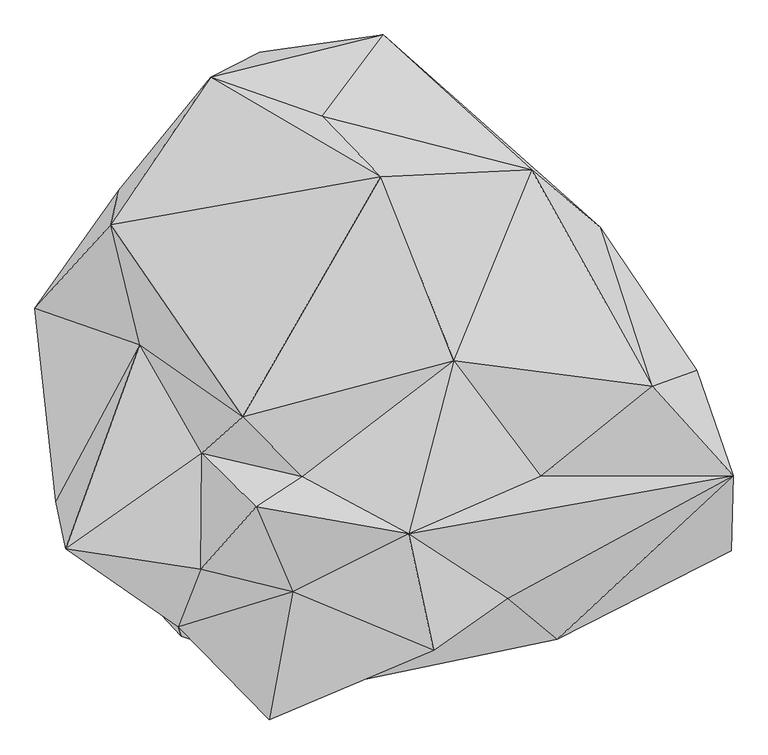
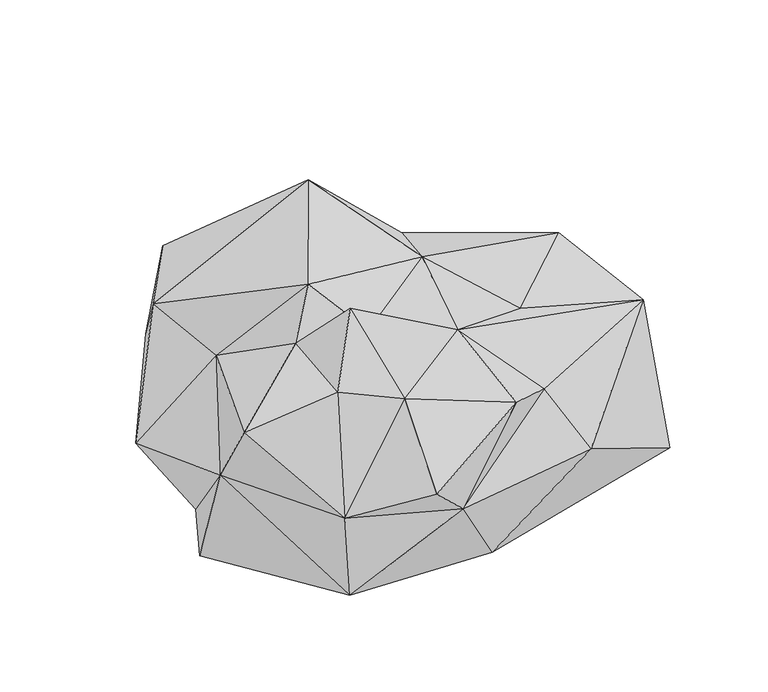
"""IFC4 building model written with IfcOpenShell, lengths in millimetres: geographic element geometry, Enscape AssetDefinition - Bush 012 English Laurel : Enscape AssetDefinition - Bush 012 English Laurel."""

from ifc_helpers import new_model, si_unit, origin, place, context, project, spatial, triangles, source, transform, mapped, element, save


def geographic_element_71cebea8(model_context):
    return source(origin(), model_context, "Body", "Tessellation", [
        triangles([(-211.1040112, -235.8870007, 1015.6639498), (55.3850005, 780.5689974, 1152.0049736), (-412.9210167, -33.5029991, 1221.9679996), (974.4020061, 69.7830043, 962.4089882), (566.393989, 803.707992, 662.1709917), (596.7379944, -233.9289989, 854.5819942), (301.4780007, 157.1359936, 1010.4769117), (-762.2260036, 210.8819863, 797.7449839), (-367.4759708, -337.6429808, 1254.7350403), (-552.6120177, -157.1789961, 1015.3009632), (-556.1130032, -550.8019901, 978.5630167), (-1012.644076, -479.9180174, 869.1199877), (-1046.7879948, -319.8449756, 545.854981), (-861.0870478, 618.3000504, 874.8880222), (-631.0550131, -744.9540201, 416.134011), (-1062.0710009, -158.6710017, 0.0), (-1117.7170229, 334.1870144, 352.388011), (-492.2230076, 726.0370062, 0.0), (-890.1139824, 175.1659977, 0.0), (-621.936965, -776.6219999, 0.0), (117.6149957, -803.8269527, 0.0), (485.2099909, -647.6750015, 693.3820227), (-119.7569979, -947.6330006, 414.6060156), (653.5130173, -786.9090174, 383.264978), (1249.2079067, -232.8120067, 674.8420206), (234.4720071, -824.9029919, 814.0509653), (-244.1640028, -626.4379984, 880.3930641), (-323.8670048, -1059.7610401, 633.975983), (149.826002, -429.8880043, 1010.2950188), (1091.8569735, -102.4489974, 0.0), (1243.61101, -487.1070045, 0.0), (1125.4869701, 125.1360028, 450.3030009), (799.0629993, 609.2420277, 280.9950032), (719.649024, 384.7510065, 0.0), (-97.7879992, 921.1479893, 0.0), (-356.2950036, 1203.4620071, 0.0), (168.0839991, 1026.1069897, 123.733999), (62.8570009, 1261.4519268, 543.9019753), (-522.4120079, 1117.5299704, 779.6420191), (-144.360002, 985.3010502, 933.690029), (-677.7369747, 833.904986, 288.0719876), (-883.953966, 427.0070028, 191.324986), (-832.8840454, 735.361001, 626.1790026)], [[2, 14, 3], [41, 42, 43], [41, 18, 42], [36, 35, 18], [36, 18, 41], [36, 41, 39], [41, 43, 39], [39, 43, 14], [2, 39, 14], [40, 39, 2], [5, 40, 2], [5, 38, 40], [36, 39, 38], [39, 40, 38], [38, 37, 36], [37, 35, 36], [21, 18, 34], [18, 35, 34], [34, 35, 37], [33, 34, 37], [33, 37, 38], [33, 38, 5], [33, 5, 4], [32, 33, 4], [34, 33, 32], [34, 30, 21], [30, 34, 32], [31, 21, 30], [31, 30, 25], [25, 4, 6], [30, 32, 25], [4, 25, 32], [29, 25, 6], [15, 28, 27], [28, 26, 27], [27, 26, 29], [22, 25, 29], [26, 22, 29], [24, 25, 22], [31, 25, 24], [24, 21, 31], [15, 23, 28], [28, 23, 26], [26, 23, 22], [23, 24, 22], [21, 24, 23], [20, 18, 21], [21, 23, 20], [20, 23, 15], [19, 18, 20], [20, 16, 19], [42, 18, 19], [43, 42, 17], [42, 19, 17], [17, 14, 43], [19, 13, 17], [19, 16, 13], [13, 16, 20], [13, 20, 15], [3, 14, 8], [14, 17, 8], [17, 13, 8], [13, 15, 12], [13, 12, 8], [15, 11, 12], [15, 27, 11], [11, 27, 9], [9, 27, 29], [8, 10, 3], [10, 11, 9], [10, 12, 11], [8, 12, 10], [1, 3, 10], [9, 29, 1], [10, 9, 1], [29, 7, 1], [6, 7, 29], [6, 4, 7], [7, 5, 2], [4, 5, 7], [7, 2, 3], [7, 3, 1]]),
    ])


if __name__ == "__main__":
    model = new_model("IFC4")
    model_context = context("Model", 3, world=origin())
    ifc_project = project(units=[si_unit("LENGTHUNIT", "METRE", prefix="MILLI")], contexts=[model_context])
    site = spatial("IfcSite", under=ifc_project)
    building = spatial("IfcBuilding", under=site)
    placement = place(None, origin())
    geographic_element_shape = geographic_element_71cebea8(model_context)
    element("IfcGeographicElement", 1, ObjectType="Enscape AssetDefinition - Bush 012 English Laurel : Enscape AssetDefinition - Bush 012 English Laurel", at=placement, inside=building, context=model_context, shape_type="MappedRepresentation", body=[
        mapped(geographic_element_shape, transform((0.0, 0.0, 0.0), x_axis=(1.0, 0.0, 0.0), y_axis=(0.0, 1.0, 0.0), z_axis=(0.0, 0.0, 1.0))),
    ])
    save(model, "model.ifc")
